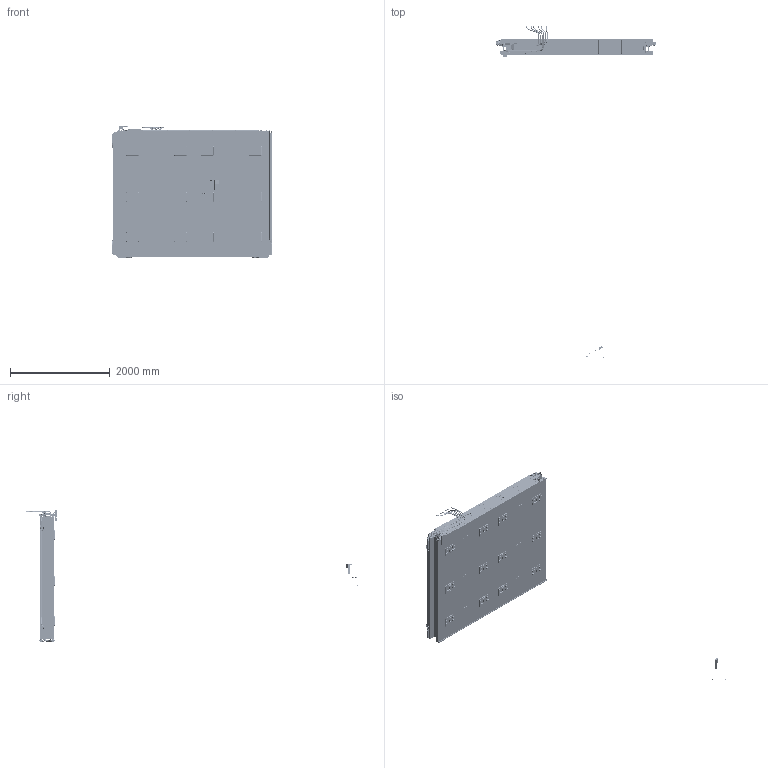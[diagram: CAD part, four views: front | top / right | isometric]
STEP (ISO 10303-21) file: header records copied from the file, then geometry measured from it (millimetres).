
FILE_DESCRIPTION(/* description */ (''),/* implementation_level */ '2;1');
FILE_NAME(/* name */ 'mb3_2_3_4_L.stp',/* time_stamp */ '2017-05-19T12:23:46+02:00',/* author */ (''),/* organization */ (''),/* preprocessor_version */ 'ST-DEVELOPER v16',/* originating_system */ 'SIEMENS PLM Software NX 10.0',/* authorisation */ '');
FILE_SCHEMA (('AUTOMOTIVE_DESIGN { 1 0 10303 214 3 1 1 1 }'));
Products named in the file (202): piastra_0011_spess; piastra_0011; spina_5x26; elicoil; connett_fe_littl; power_supply_model; tappo1_4; connett_test_p; mb45_phi_lam_vars; mb3c_phi_lam_vars; mb3_phi_lam_vars; mb2c_th_lam_vars; mb2c_phi_lam_vars; mb2_th_lam_vars; mb2_phi_lam_vars; mb3c_th_lam_vars; mb45c_phi_lam_vars; mb3_th_lam_vars; mb48_phi_lam_vars; mb1_phi_lam_vars; mb1_th_lam_vars; mb49_phi_lam_vars; mb1c_phi_lam_vars; mb1c_th_lam_vars; cover_new2; axis; tappo1_8; colon_front_000308; block_sh12_000301; txt_2_lung; BLK1376; BLK1375; BLK1374; BLK1373; BLK1372; BLK1370; BLK1369; BLK1368; BLK1367; BLK1366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
Assembly tree (457 placements, depth 7):
  030930_mb3_2_3_4_th_phi_L_carters
    mb3_2_3_4_ass
      mb3_2_3_4_ch
        mb3_phi_superlay  x2
          mb3_q1_ass_lamiere
            mb3_q1_b1
            mb3_q1_b1_up
            cms_mb_02_019  x4
          mb3_q1_ass_lateral
            as_angle  x2
              block_sh12_000301
              colon_front_000308
            cms_mb_02_014
          vite_m4
          mb3_q1_cover_hv_ass
            cms_mb_02_028
            cms_mb_02_023
              tappo1_8  x2
              axis  x43
            as_hv_conn_cover  x2
              cover_new2
          vars
            mb1c_th_vars
              mb1c_th_lam_vars
            mb1c_phi_vars
              mb1c_phi_lam_vars
            mb49_phi_vars
              mb49_phi_lam_vars
            mb1_th_vars
              mb1_th_lam_vars
            mb1_phi_vars
              mb1_phi_lam_vars
            mb48_phi_vars
              mb48_phi_lam_vars
            mb3_th_vars
              mb3_th_lam_vars
            mb45c_phi_vars
              mb45c_phi_lam_vars
            mb3c_th_vars
              mb3c_th_lam_vars
            mb2_phi_vars
              mb2_phi_lam_vars
            mb2_th_vars
              mb2_th_lam_vars
            mb2c_phi_vars
              mb2c_phi_lam_vars
            mb2c_th_vars
              mb2c_th_lam_vars
            mb3_phi_vars
              mb3_phi_lam_vars
            mb3c_phi_vars
              mb3c_phi_lam_vars
            mb45_phi_vars
              mb45_phi_lam_vars
          3054_ass
            3054_cms_mb_02_044
              axis  x47
              connett_test_p  x5
              tappo1_4  x2
              tappo1_8  x2
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Bounding box: 3215.54 x 6652.4 x 2646.12 mm (x, y, z)
Volume: 973812377.4 mm3; surface area: 169744172.2 mm2
Topology: 244 solids, 663 shells, 15867 faces, 50664 edges, 41433 vertices
Faces by surface type: plane 9251, cylinder 4825, cone 1285, torus 286, bspline 168, sphere 52
Full cylindrical faces by diameter (mm): 1 x251, 1.675 x12, 2.459 x3, 2.594 x54, 3 x78, 3.2 x12, 3.25 x4, 3.3 x36, 3.432 x527, 3.5 x57, 3.778 x7, 4 x39, 4.5 x1, 4.8 x2, 5 x71, 5.188 x56, 5.5 x284, 6 x42, 6.4 x32, 6.5 x2, 7 x3, 7.5 x72, 8 x70, 8.6 x6, 8.782 x28, 8.8 x20, 8.933 x24, 8.985 x24, 9 x2, 9.061 x2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
Entity records: 350357 total; most frequent: CARTESIAN_POINT 103020, ORIENTED_EDGE 41647, DIRECTION 40608, EDGE_CURVE 21318, AXIS2_PLACEMENT_3D 14747, VERTEX_POINT 13767, EDGE_LOOP 12006, LINE 11114
